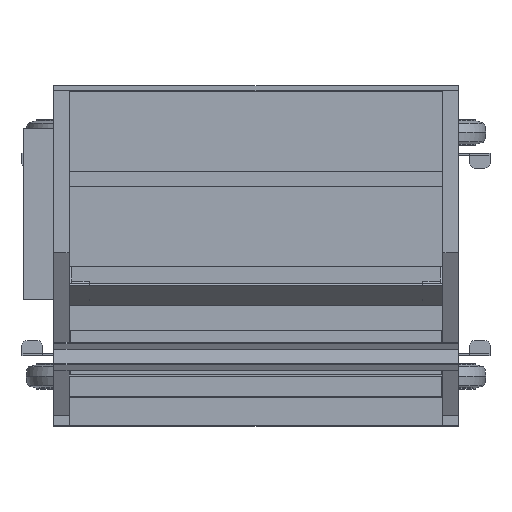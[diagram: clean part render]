
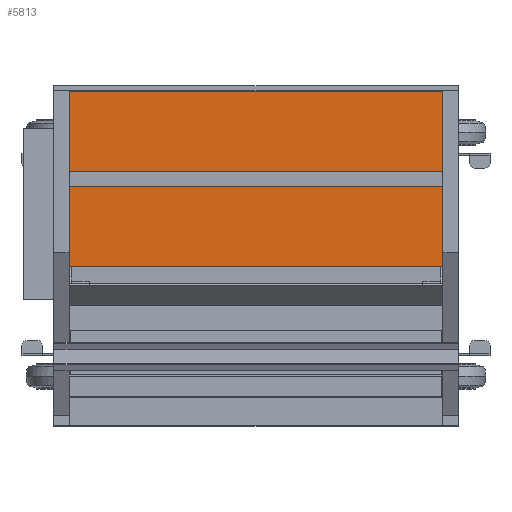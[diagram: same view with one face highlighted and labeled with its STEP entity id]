
A CAD part, top view. The second image highlights one B-rep face of the part: STEP entity #5813.
In plain terms, the highlighted free-form (B-spline) face has degree [1, 1] with [2, 2] control points.
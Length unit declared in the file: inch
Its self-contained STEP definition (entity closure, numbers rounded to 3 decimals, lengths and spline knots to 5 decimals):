
#5750 = CARTESIAN_POINT ('', (19.25, 16., 44.99122));
#5751 = VERTEX_POINT ('', #5750);
#5759 = CARTESIAN_POINT ('', (19.25, 7.30616, 44.99122));
#5760 = VERTEX_POINT ('', #5759);
#5761 = CARTESIAN_POINT ('', (19.25, 7.30616, 44.99122));
#5762 = CARTESIAN_POINT ('', (19.25, 16., 44.99122));
#5763 = B_SPLINE_CURVE_WITH_KNOTS ('', 1, (#5761, #5762), .UNSPECIFIED., .F., .U., (2, 2), (9.17628, 17.87012), .UNSPECIFIED.);
#5764 = EDGE_CURVE ('', #5760, #5751, #5763, .T.);
#5786 = CARTESIAN_POINT ('', (0.75, 7.30616, 44.99122));
#5787 = VERTEX_POINT ('', #5786);
#5788 = CARTESIAN_POINT ('', (0.75, 16., 44.99122));
#5789 = VERTEX_POINT ('', #5788);
#5790 = CARTESIAN_POINT ('', (0.75, 7.30616, 44.99122));
#5791 = CARTESIAN_POINT ('', (0.75, 16., 44.99122));
#5792 = B_SPLINE_CURVE_WITH_KNOTS ('', 1, (#5790, #5791), .UNSPECIFIED., .F., .U., (2, 2), (9.17628, 17.87012), .UNSPECIFIED.);
#5793 = EDGE_CURVE ('', #5787, #5789, #5792, .T.);
#5794 = ORIENTED_EDGE ('', *, *, #5793, .F.);
#5795 = CARTESIAN_POINT ('', (0.75, 7.30616, 44.99122));
#5796 = CARTESIAN_POINT ('', (19.25, 7.30616, 44.99122));
#5797 = B_SPLINE_CURVE_WITH_KNOTS ('', 1, (#5795, #5796), .UNSPECIFIED., .F., .U., (2, 2), (0.03896, 1.), .UNSPECIFIED.);
#5798 = EDGE_CURVE ('', #5787, #5760, #5797, .T.);
#5799 = ORIENTED_EDGE ('', *, *, #5798, .T.);
#5800 = ORIENTED_EDGE ('', *, *, #5764, .T.);
#5801 = CARTESIAN_POINT ('', (0.75, 16., 44.99122));
#5802 = CARTESIAN_POINT ('', (19.25, 16., 44.99122));
#5803 = B_SPLINE_CURVE_WITH_KNOTS ('', 1, (#5801, #5802), .UNSPECIFIED., .F., .U., (2, 2), (0.03896, 1.), .UNSPECIFIED.);
#5804 = EDGE_CURVE ('', #5789, #5751, #5803, .T.);
#5805 = ORIENTED_EDGE ('', *, *, #5804, .F.);
#5806 = EDGE_LOOP ('', (#5794, #5799, #5800, #5805));
#5807 = FACE_OUTER_BOUND ('', #5806, .T.);
#5808 = CARTESIAN_POINT ('', (0., 7.30616, 44.99122));
#5809 = CARTESIAN_POINT ('', (0., 16., 44.99122));
#5810 = CARTESIAN_POINT ('', (19.25, 7.30616, 44.99122));
#5811 = CARTESIAN_POINT ('', (19.25, 16., 44.99122));
#5812 = B_SPLINE_SURFACE_WITH_KNOTS ('', 1, 1, ((#5808, #5809), (#5810, #5811)), .UNSPECIFIED., .F., .F., .U., (2, 2), (2, 2), (0., 1.), (9.17628, 17.87012), .UNSPECIFIED.);
#5813 = ADVANCED_FACE ('', (#5807), #5812, .T.);
